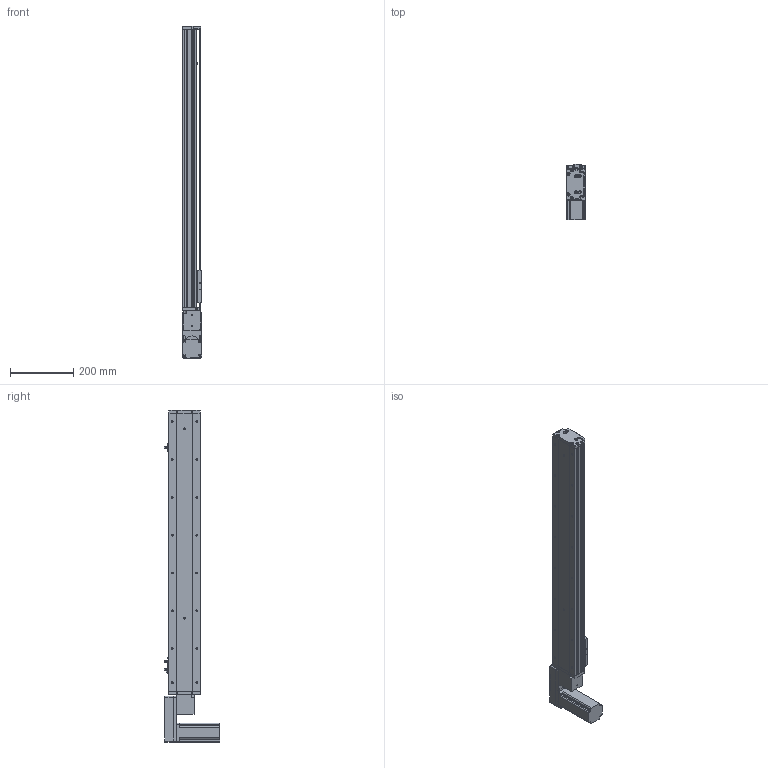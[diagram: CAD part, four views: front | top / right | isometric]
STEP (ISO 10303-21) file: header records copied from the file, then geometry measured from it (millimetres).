
FILE_DESCRIPTION (( 'STEP AP214' ), '1' );
FILE_NAME ('KSD100B-S700-MLB-CM.STEP', '2019-08-31T01:42:14', ( '微软用户' ), ( '微软中国' ), 'SwSTEP 2.0', 'SolidWorks 2014', '' );
FILE_SCHEMA (( 'AUTOMOTIVE_DESIGN' ));
Length unit declared in the file: millimetre
Products named in the file (12): U倰嫖萇EEㄜSX672; 覜茼え100遵圉猾敕; 100宽防尘板700行程-同步带; 100宽马达安装板同步带左; 100宽同步带安装板半封闭; 100宽马达安装板同步带; 100遵傷啣肮祭湍; 100宽底板半封闭同步带700行程; KSD100B-S700-MLB-CM; 悵誘欶奻狟殏; 100宽马达安装板连板上下折丝杆同步带; 台达ECMA－C20604AS伺服电机
Assembly tree (13 placements, depth 2):
  KSD100B-S700-MLB-CM
    100宽底板半封闭同步带700行程
    100遵傷啣肮祭湍
    100宽马达安装板同步带
    100宽同步带安装板半封闭
    100宽马达安装板同步带左
    100宽防尘板700行程-同步带
    覜茼え100遵圉猾敕
    U倰嫖萇EEㄜSX672  x3
    台达ECMA－C20604AS伺服电机
    100宽马达安装板连板上下折丝杆同步带
    悵誘欶奻狟殏
Bounding box: 61 x 174.7 x 1053 mm (x, y, z)
Volume: 2361882 mm3; surface area: 767082.5 mm2
Topology: 14 solids, 14 shells, 1393 faces, 3908 edges, 2497 vertices
Faces by surface type: cylinder 691, plane 583, cone 119
Entity records: 48897 total; most frequent: CARTESIAN_POINT 9362, DIRECTION 6756, ORIENTED_EDGE 6484, EDGE_CURVE 3242, AXIS2_PLACEMENT_3D 2461, VERTEX_POINT 2121, LINE 1834, VECTOR 1834
